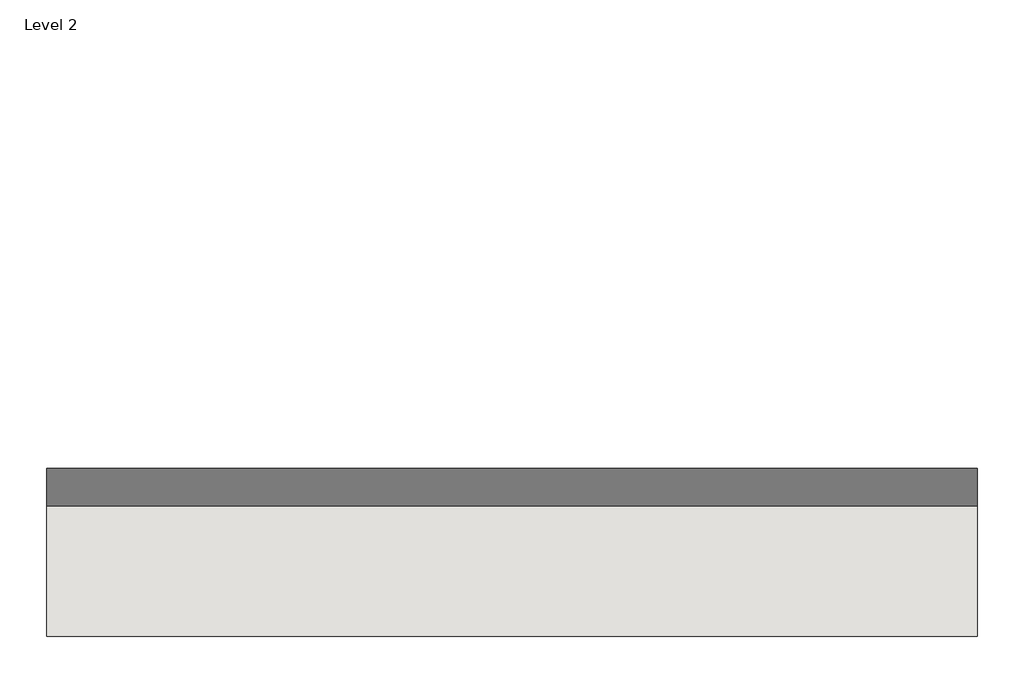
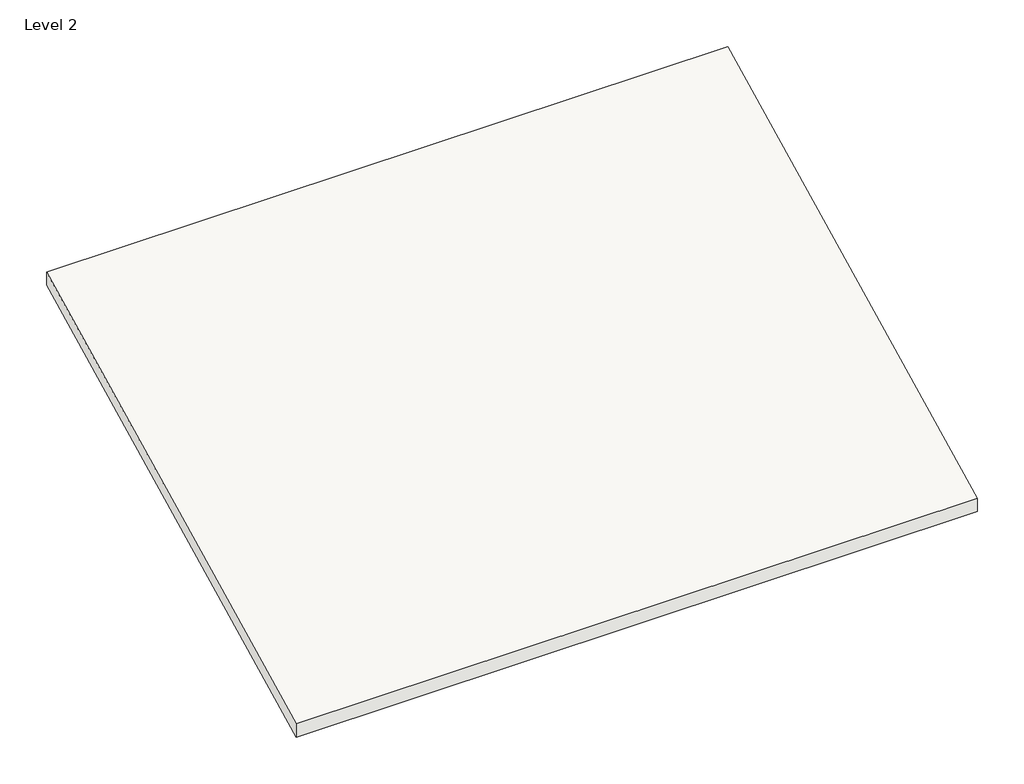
# One storey: 1 roof.
"""IFC4 building model written with IfcOpenShell, lengths in millimetres."""

import ifcopenshell
import ifcopenshell.guid

model = None  # the IFC model being written
_history = None  # IfcOwnerHistory: only IFC2X3 demands one
_inside = {}  # id of a spatial element -> (the spatial element, [elements in it])
_under = {}  # id of a project, library or spatial element -> (it, [spatial elements below it])
_declared = {}  # id of a project -> (the project, [libraries it declares])
_typed = {}  # id of a type object -> (the type object, [elements of that type])
_made_of = {}  # id of a material, layer set ... -> (it, [elements and type objects made of it])


def new_model(schema):
    """Start an empty IFC model of exactly this schema.

    Asked for "IFC4X3", IfcOpenShell would pick the latest addendum, in which some entities
    have other attributes; the version numbers below select the first issue.
    IFC2X3 requires an IfcOwnerHistory on every rooted entity: one is made here for all.
    """
    global model, _history
    if schema == "IFC4X3":
        model = ifcopenshell.file(schema_version=(4, 3, 0, 0))
    else:
        model = ifcopenshell.file(schema=schema)
    _inside.clear()
    _under.clear()
    _declared.clear()
    _typed.clear()
    _made_of.clear()
    _history = None
    if model.schema == "IFC2X3":
        org = make("IfcOrganization", Name="unknown")
        user = make(
            "IfcPersonAndOrganization",
            ThePerson=make("IfcPerson", FamilyName="unknown"),
            TheOrganization=org,
        )
        app = make(
            "IfcApplication",
            ApplicationDeveloper=org,
            Version="unknown",
            ApplicationFullName="unknown",
            ApplicationIdentifier="unknown",
        )
        _history = make(
            "IfcOwnerHistory",
            OwningUser=user,
            OwningApplication=app,
            ChangeAction="ADDED",
            CreationDate=0,
        )
    return model


def make(cls, **values):
    """One entity of the class cls with the attributes given. An attribute that is None is left unset."""
    return model.create_entity(
        cls, **{name: value for name, value in values.items() if value is not None}
    )


def rooted(cls, **values):
    """An entity with a GlobalId (a new one), such as an element, a storey or a relation."""
    return make(cls, GlobalId=ifcopenshell.guid.new(), OwnerHistory=_history, **values)


def si_unit(unit_type, name, prefix=None):
    """IfcSIUnit, for example si_unit("LENGTHUNIT", "METRE", prefix="MILLI")."""
    return make("IfcSIUnit", UnitType=unit_type, Prefix=prefix, Name=name)


def assignment(units):
    """IfcUnitAssignment: the units of a project."""
    return None if units is None else make("IfcUnitAssignment", Units=units)


def point(xyz):
    """IfcCartesianPoint."""
    return None if xyz is None else make("IfcCartesianPoint", Coordinates=xyz)


def direction(xyz):
    """IfcDirection."""
    return None if xyz is None else make("IfcDirection", DirectionRatios=xyz)


def frame(location, z_axis=None, x_axis=None):
    """IfcAxis2Placement3D, a coordinate frame: its origin and axes. An axis left out is left unset."""
    return make(
        "IfcAxis2Placement3D",
        Location=point(location),
        Axis=direction(z_axis),
        RefDirection=direction(x_axis),
    )


def origin():
    """The frame at (0, 0, 0) with its axes left unset."""
    return frame((0.0, 0.0, 0.0))


def place(relative_to, where):
    """IfcLocalPlacement: puts the frame where relative to a parent placement (None: the world)."""
    return make(
        "IfcLocalPlacement", PlacementRelTo=relative_to, RelativePlacement=where
    )


def context(
    kind, dimensions, precision=None, world=None, true_north=None, identifier=None
):
    """IfcGeometricRepresentationContext, for example the 3D "Model" context."""
    return make(
        "IfcGeometricRepresentationContext",
        ContextIdentifier=identifier,
        ContextType=kind,
        CoordinateSpaceDimension=dimensions,
        Precision=precision,
        WorldCoordinateSystem=world,
        TrueNorth=true_north,
    )


def project(units=None, contexts=None):
    """IfcProject with its units and contexts."""
    return rooted(
        "IfcProject",
        Name="project",
        RepresentationContexts=contexts,
        UnitsInContext=assignment(units),
    )


def spatial(cls, under=None, at=None, **own):
    """A site, building, storey or space (cls), placed at a placement, below another one or the project."""
    s = rooted(cls, ObjectPlacement=at, **own)
    if under is not None:
        _under.setdefault(under.id(), (under, []))[1].append(s)
    return s


def polyline(points):
    """IfcPolyline through the points."""
    return make("IfcPolyline", Points=[point(p) for p in points])


def outline(outer, holes=None, kind="AREA"):
    """IfcArbitraryClosedProfileDef: a profile drawn as a closed curve; with holes, ...WithVoids."""
    if holes is None:
        return make("IfcArbitraryClosedProfileDef", ProfileType=kind, OuterCurve=outer)
    return make(
        "IfcArbitraryProfileDefWithVoids",
        ProfileType=kind,
        OuterCurve=outer,
        InnerCurves=holes,
    )


def extrude(swept, where, along, depth):
    """IfcExtrudedAreaSolid: the profile swept, set in the frame where, extruded along a direction by depth."""
    return make(
        "IfcExtrudedAreaSolid",
        SweptArea=swept,
        Position=where,
        ExtrudedDirection=direction(along),
        Depth=depth,
    )


def shape(context_of_items, identifier, shape_type, items):
    """IfcShapeRepresentation: the items that make up one representation, for example the "Body"."""
    return make(
        "IfcShapeRepresentation",
        ContextOfItems=context_of_items,
        RepresentationIdentifier=identifier,
        RepresentationType=shape_type,
        Items=items,
    )


def made_of(thing, what):
    """Note that an element or type object is made of a material, layer set ...; save() writes the relation."""
    if what is not None:
        _made_of.setdefault(what.id(), (what, []))[1].append(thing)
    return thing


def element(
    cls,
    number,
    at=None,
    inside=None,
    cuts=None,
    type_object=None,
    material=None,
    context=None,
    identifier="Body",
    shape_type=None,
    held_by="IfcProductDefinitionShape",
    body=None,
    shapes=None,
    **own,
):
    """One element of the class cls, such as IfcWall. Its Tag is "e" and its number.

    at: its placement. inside: the storey or other place that contains it. cuts: it is an
    opening in that element (IfcRelVoidsElement). A single representation is given by context,
    identifier, shape_type and body (its items); several are given by shapes. held_by: the class
    of the entity that holds the representations. save() writes the other relations.
    """
    e = rooted(cls, Tag="e%d" % number, ObjectPlacement=at, **own)
    if body is not None:
        shapes = [shape(context, identifier, shape_type, body)]
    if shapes is not None:
        e.Representation = make(held_by, Representations=shapes)
    if inside is not None:
        _inside.setdefault(inside.id(), (inside, []))[1].append(e)
    if cuts is not None:
        rooted(
            "IfcRelVoidsElement", RelatingBuildingElement=cuts, RelatedOpeningElement=e
        )
    if type_object is not None:
        _typed.setdefault(type_object.id(), (type_object, []))[1].append(e)
    return made_of(e, material)


def aggregate(whole, parts):
    """IfcRelAggregates: a whole, such as a stair, and the parts it consists of."""
    return rooted("IfcRelAggregates", RelatingObject=whole, RelatedObjects=parts)


def save(model, path):
    """Write the relations noted so far, then the file.

    IfcRelAggregates (storeys below a building ...), IfcRelContainedInSpatialStructure (elements
    in a storey), IfcRelDefinesByType, IfcRelAssociatesMaterial and IfcRelDeclares: one each for
    every whole, place, type object, material and project.
    """
    for whole, parts in _under.values():
        aggregate(whole, parts)
    for where, things in _inside.values():
        rooted(
            "IfcRelContainedInSpatialStructure",
            RelatedElements=things,
            RelatingStructure=where,
        )
    for kind, things in _typed.values():
        rooted("IfcRelDefinesByType", RelatedObjects=things, RelatingType=kind)
    for what, things in _made_of.values():
        rooted("IfcRelAssociatesMaterial", RelatedObjects=things, RelatingMaterial=what)
    for by, libraries in _declared.values():
        rooted("IfcRelDeclares", RelatingContext=by, RelatedDefinitions=libraries)
    model.write(path)


model = new_model("IFC4")

# Units and contexts
model_context = context("Model", 3, world=origin())
ifc_project = project(units=[si_unit("LENGTHUNIT", "METRE", prefix="MILLI")], contexts=[model_context])

# Site, building, storey
site = spatial("IfcSite", under=ifc_project)
building = spatial("IfcBuilding", under=site)
storey = spatial("IfcBuildingStorey", under=building, Name="Level 2", Elevation=3048.0)

# Roof
placement = place(None, origin())
element("IfcRoof", 1, ObjectType="Generic - 12\"", at=placement, inside=storey, context=model_context, shape_type="SweptSolid", body=[
    extrude(outline(polyline([(-2826.1877516, 3083.9767598), (7740.2122484, 8367.1767598), (7740.2122484, 8026.4), (-2826.1877516, 2743.2), (-2826.1877516, 3083.9767598)])), frame((-8205.7466991, 0.0, 0.0), z_axis=(1.0, 0.0, 0.0), x_axis=(0.0, 1.0, 0.0)), (0.0, 0.0, 1.0), 16662.4),
])

save(model, "model.ifc")
